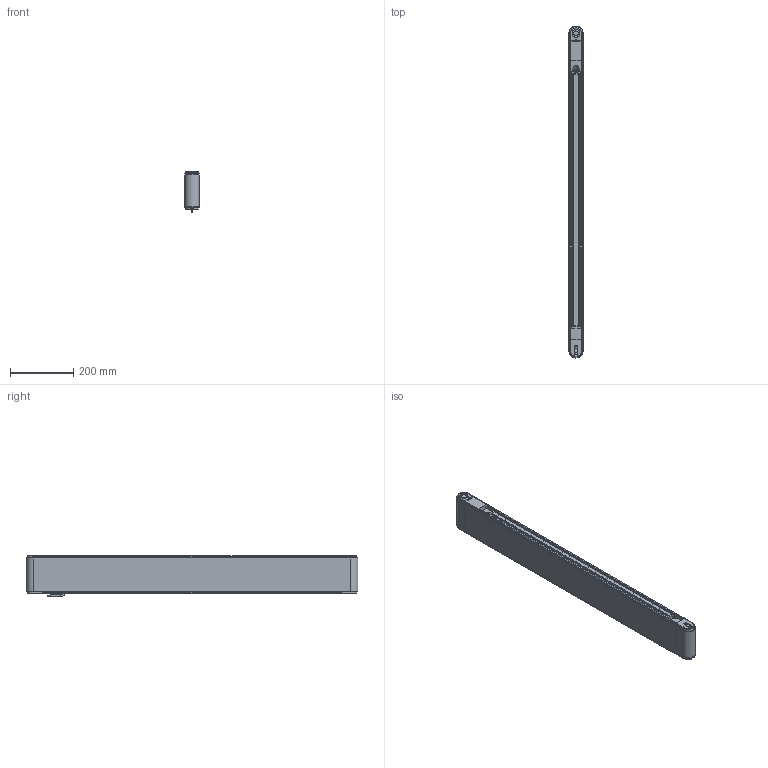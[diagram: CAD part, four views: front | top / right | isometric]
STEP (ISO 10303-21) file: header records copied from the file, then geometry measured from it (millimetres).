
FILE_DESCRIPTION(/* description */ (''),/* implementation_level */ '2;1');
FILE_NAME(/* name */ 'G:\DATEN\CAD\Förderband\Marketing\3D-Modelle (Standard)\FR-40-120\FR-40-120-1000-K.stp',/* time_stamp */ '2019-05-08T08:36:12+02:00',/* author */ ('melanie.ochs'),/* organization */ (''),/* preprocessor_version */ 'ST-DEVELOPER v17',/* originating_system */ 'Autodesk Inventor 2019',/* authorisation */ '');
FILE_SCHEMA (('CONFIG_CONTROL_DESIGN'));
Length unit declared in the file: centimetre
Products named in the file (1): FR-40-120-1000-K
Bounding box: 46.6 x 1046.6 x 128.53 mm (x, y, z)
Volume: 2017827 mm3; surface area: 1012238.1 mm2
Topology: 6 solids, 29 shells, 1045 faces, 2853 edges, 1906 vertices
Faces by surface type: plane 535, cylinder 289, bspline 122, cone 74, torus 25
Full cylindrical faces by diameter (mm): 2 x2, 4 x6, 4.3 x4, 4.64 x2, 4.917 x3, 5 x11, 5.5 x8, 6 x6, 6.5 x1, 6.647 x3, 8 x4, 8.3 x8, 8.5 x8, 8.773 x1, 10 x1, 11 x1, 12 x4, 15 x4, 20 x4, 25 x2, 28 x4
Entity records: 35728 total; most frequent: CARTESIAN_POINT 8438, ORIENTED_EDGE 5682, DIRECTION 5159, EDGE_CURVE 2841, VERTEX_POINT 1906, AXIS2_PLACEMENT_3D 1793, LINE 1573, VECTOR 1573
